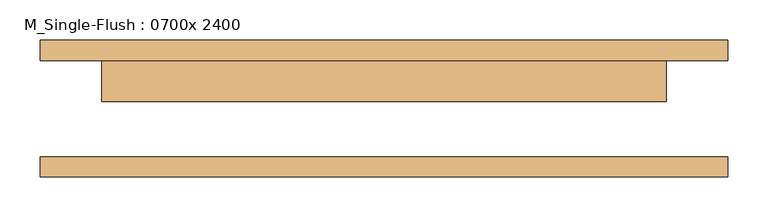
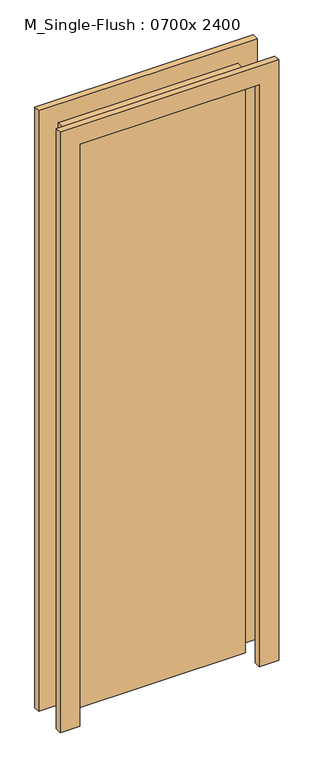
"""IFC4 building model written with IfcOpenShell, lengths in millimetres: door geometry, M_Single-Flush : 0700x 2400."""

from ifc_helpers import new_model, si_unit, frame, origin, origin_with_axes, place, context, project, spatial, polyline, outline, extrude, source, transform, mapped, element, save


def m_single_flush_0700x_2400_7219f577(model_context):
    return source(origin(), model_context, "Body", "SweptSolid", [
        extrude(outline(polyline([(350.0, 9.0), (-350.0, 9.0), (-350.0, 60.0), (350.0, 60.0), (350.0, 9.0)])), origin_with_axes(), (0.0, 0.0, 1.0), 2400.0),
        extrude(outline(polyline([(2476.0, -426.0), (0.0, -426.0), (0.0, -350.0), (2400.0, -350.0), (2400.0, 350.0), (0.0, 350.0), (0.0, 426.0), (2476.0, 426.0), (2476.0, -426.0)])), frame((0.0, 60.0, 0.0), z_axis=(0.0, 1.0, 0.0), x_axis=(0.0, 0.0, 1.0)), (0.0, 0.0, 1.0), 25.0),
        extrude(outline(polyline([(2476.0, 426.0), (2476.0, -426.0), (0.0, -426.0), (0.0, -350.0), (2400.0, -350.0), (2400.0, 350.0), (0.0, 350.0), (0.0, 426.0), (2476.0, 426.0)])), frame((0.0, -85.0, 0.0), z_axis=(0.0, 1.0, 0.0), x_axis=(0.0, 0.0, 1.0)), (0.0, 0.0, 1.0), 25.0),
    ])


if __name__ == "__main__":
    model = new_model("IFC4")
    model_context = context("Model", 3, world=origin())
    ifc_project = project(units=[si_unit("LENGTHUNIT", "METRE", prefix="MILLI")], contexts=[model_context])
    site = spatial("IfcSite", under=ifc_project)
    building = spatial("IfcBuilding", under=site)
    placement = place(None, origin())
    m_single_flush_0700x_2400_shape = m_single_flush_0700x_2400_7219f577(model_context)
    element("IfcDoor", 1, ObjectType="M_Single-Flush : 0700x 2400", at=placement, inside=building, context=model_context, shape_type="MappedRepresentation", body=[
        mapped(m_single_flush_0700x_2400_shape, transform((0.0, 0.0, 0.0), x_axis=(1.0, 0.0, 0.0), y_axis=(0.0, 1.0, 0.0), z_axis=(0.0, 0.0, 1.0))),
    ])
    save(model, "model.ifc")
